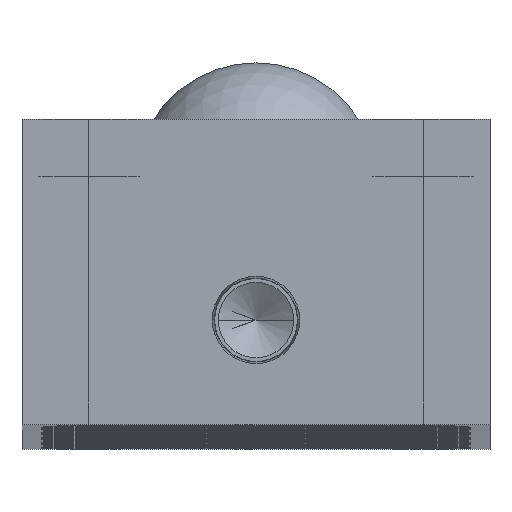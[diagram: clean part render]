
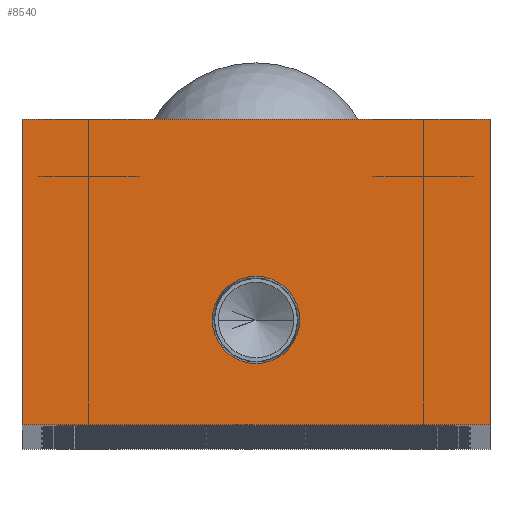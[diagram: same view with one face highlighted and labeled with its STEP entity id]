
A CAD part, top view. The second image highlights one B-rep face of the part: STEP entity #8540.
In plain terms, the highlighted planar face has unit normal (0, 0, 1).
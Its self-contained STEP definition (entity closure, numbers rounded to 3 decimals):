
#117 = DIRECTION ( 'NONE',  ( -1., 0., 0. ) ) ;
#689 = CIRCLE ( 'NONE', #968, 4.574 ) ;
#778 = DIRECTION ( 'NONE',  ( -1., 0., 0. ) ) ;
#793 = CARTESIAN_POINT ( 'NONE',  ( -24.5, 0., 0. ) ) ;
#968 = AXIS2_PLACEMENT_3D ( 'NONE', #13958, #32541, #16596 ) ;
#1446 = VERTEX_POINT ( 'NONE', #33797 ) ;
#2255 = ORIENTED_EDGE ( 'NONE', *, *, #16649, .F. ) ;
#3416 = DIRECTION ( 'NONE',  ( 1., 0., 0. ) ) ;
#4432 = VERTEX_POINT ( 'NONE', #23294 ) ;
#4553 = CARTESIAN_POINT ( 'NONE',  ( 24.5, 32., 0. ) ) ;
#4804 = FACE_OUTER_BOUND ( 'NONE', #11655, .T. ) ;
#5799 = EDGE_CURVE ( 'NONE', #23391, #34377, #689, .T. ) ;
#7256 = DIRECTION ( 'NONE',  ( 0., 1., 0. ) ) ;
#7767 = ORIENTED_EDGE ( 'NONE', *, *, #25936, .T. ) ;
#8318 = VECTOR ( 'NONE', #3416, 1000. ) ;
#8540 = ADVANCED_FACE ( 'NONE', ( #25187, #4804 ), #23973, .F. ) ;
#9384 = CARTESIAN_POINT ( 'NONE',  ( 0., 11., 0. ) ) ;
#9879 = ORIENTED_EDGE ( 'NONE', *, *, #11500, .T. ) ;
#10433 = AXIS2_PLACEMENT_3D ( 'NONE', #9384, #27961, #12088 ) ;
#10735 = CARTESIAN_POINT ( 'NONE',  ( 0., 0., 0. ) ) ;
#11314 = LINE ( 'NONE', #793, #30846 ) ;
#11500 = EDGE_CURVE ( 'NONE', #4432, #1446, #18141, .T. ) ;
#11655 = EDGE_LOOP ( 'NONE', ( #7767, #34334, #12435, #9879 ) ) ;
#12088 = DIRECTION ( 'NONE',  ( 1., 0., 0. ) ) ;
#12435 = ORIENTED_EDGE ( 'NONE', *, *, #15715, .T. ) ;
#13958 = CARTESIAN_POINT ( 'NONE',  ( 0., 11., 0. ) ) ;
#15185 = VERTEX_POINT ( 'NONE', #31597 ) ;
#15676 = CARTESIAN_POINT ( 'NONE',  ( -4.574, 11., 0. ) ) ;
#15715 = EDGE_CURVE ( 'NONE', #15185, #4432, #26234, .T. ) ;
#16069 = DIRECTION ( 'NONE',  ( 0., 0., -1. ) ) ;
#16554 = EDGE_CURVE ( 'NONE', #17530, #15185, #29497, .T. ) ;
#16596 = DIRECTION ( 'NONE',  ( 1., 0., 0. ) ) ;
#16649 = EDGE_CURVE ( 'NONE', #34377, #23391, #19079, .T. ) ;
#16766 = DIRECTION ( 'NONE',  ( 0., -1., 0. ) ) ;
#17319 = VECTOR ( 'NONE', #778, 1000. ) ;
#17528 = ORIENTED_EDGE ( 'NONE', *, *, #5799, .F. ) ;
#17530 = VERTEX_POINT ( 'NONE', #34195 ) ;
#18141 = LINE ( 'NONE', #32674, #17319 ) ;
#18472 = CARTESIAN_POINT ( 'NONE',  ( 4.574, 11., 0. ) ) ;
#19079 = CIRCLE ( 'NONE', #10433, 4.574 ) ;
#23294 = CARTESIAN_POINT ( 'NONE',  ( 24.5, 32., 0. ) ) ;
#23391 = VERTEX_POINT ( 'NONE', #15676 ) ;
#23973 = PLANE ( 'NONE',  #27517 ) ;
#24573 = VECTOR ( 'NONE', #7256, 1000. ) ;
#25187 = FACE_BOUND ( 'NONE', #28233, .T. ) ;
#25936 = EDGE_CURVE ( 'NONE', #1446, #17530, #11314, .T. ) ;
#26234 = LINE ( 'NONE', #4553, #24573 ) ;
#27517 = AXIS2_PLACEMENT_3D ( 'NONE', #10735, #16069, #117 ) ;
#27961 = DIRECTION ( 'NONE',  ( 0., 0., 1. ) ) ;
#28233 = EDGE_LOOP ( 'NONE', ( #2255, #17528 ) ) ;
#29497 = LINE ( 'NONE', #29954, #8318 ) ;
#29954 = CARTESIAN_POINT ( 'NONE',  ( 24.5, 0., 0. ) ) ;
#30846 = VECTOR ( 'NONE', #16766, 1000. ) ;
#31597 = CARTESIAN_POINT ( 'NONE',  ( 24.5, 0., 0. ) ) ;
#32541 = DIRECTION ( 'NONE',  ( 0., 0., 1. ) ) ;
#32674 = CARTESIAN_POINT ( 'NONE',  ( -24.5, 32., 0. ) ) ;
#33797 = CARTESIAN_POINT ( 'NONE',  ( -24.5, 32., 0. ) ) ;
#34195 = CARTESIAN_POINT ( 'NONE',  ( -24.5, 0., 0. ) ) ;
#34334 = ORIENTED_EDGE ( 'NONE', *, *, #16554, .T. ) ;
#34377 = VERTEX_POINT ( 'NONE', #18472 ) ;
